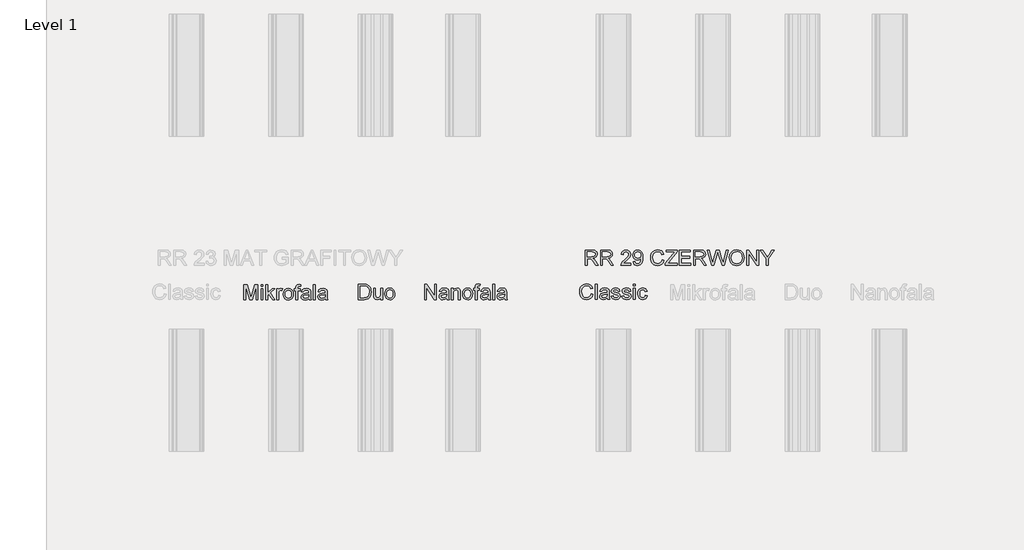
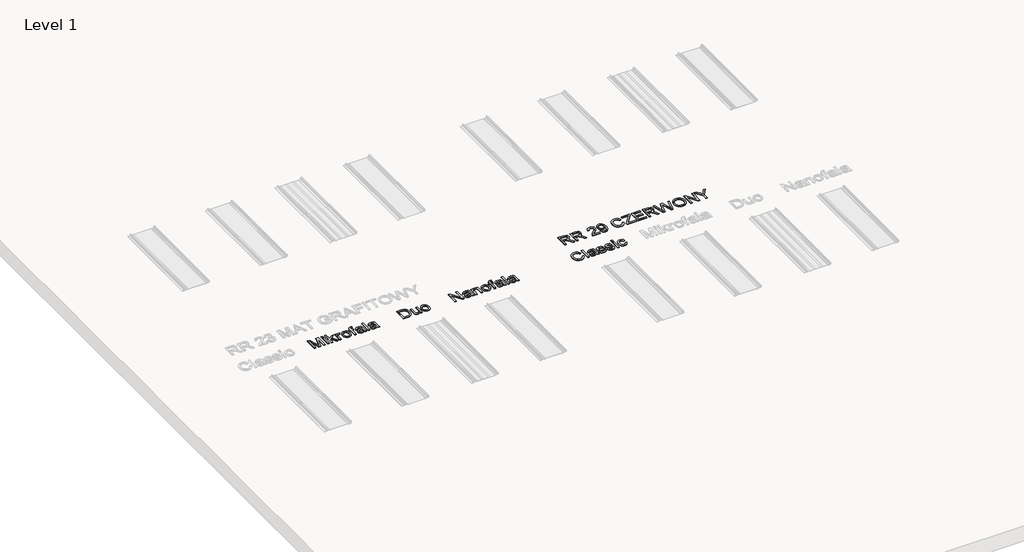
# One storey, part 12 of 24: 5 proxies.
"""IFC4 building model written with IfcOpenShell, lengths in millimetres."""

from ifc_helpers import new_model, si_unit, frame, origin, place, context, project, spatial, polyline, outline, extrude, element, save

model = new_model("IFC4")

# Units and contexts
model_context = context("Model", 3, world=origin())
ifc_project = project(units=[si_unit("LENGTHUNIT", "METRE", prefix="MILLI")], contexts=[model_context])

# Site, building, storey
site = spatial("IfcSite", under=ifc_project)
building = spatial("IfcBuilding", under=site)
storey = spatial("IfcBuildingStorey", under=building, Name="Level 1", Elevation=0.0)

# Proxies
placement = place(None, origin())
element("IfcBuildingElementProxy", 1, Name="150", ObjectType="150", at=placement, inside=storey, context=model_context, shape_type="SweptSolid", body=[
    extrude(outline(polyline([(-7895.6654959, -5075.281387), (-7895.6654959, -4924.5969218), (-7863.3654568, -4924.5969218), (-7832.4633692, -5030.8044538), (-7826.2093753, -5052.9877381), (-7819.4771347, -5028.9650438), (-7789.1636583, -4924.5969218), (-7756.7532546, -4924.5969218), (-7756.7532546, -5075.281387), (-7775.5888127, -5075.281387), (-7775.5888127, -4943.4324799), (-7813.44387, -5075.281387), (-7838.9380923, -5075.281387), (-7876.8299378, -4943.4324799), (-7876.8299378, -5075.281387), (-7895.6654959, -5075.281387)])), frame((0.0, 0.0, 600.0), z_axis=(0.0, 0.0, 1.0), x_axis=(1.0, 0.0, 0.0)), (0.0, 0.0, 1.0), 10.0),
    extrude(outline(polyline([(-7726.1454726, -4943.4324799), (-7726.1454726, -4924.5969218), (-7707.3099144, -4924.5969218), (-7707.3099144, -4943.4324799), (-7726.1454726, -4943.4324799)])), frame((0.0, 0.0, 600.0), z_axis=(0.0, 0.0, 1.0), x_axis=(1.0, 0.0, 0.0)), (0.0, 0.0, 1.0), 10.0),
    extrude(outline(polyline([(-7726.1454726, -5075.281387), (-7726.1454726, -4964.6224829), (-7707.3099144, -4964.6224829), (-7707.3099144, -5075.281387), (-7726.1454726, -5075.281387)])), frame((0.0, 0.0, 600.0), z_axis=(0.0, 0.0, 1.0), x_axis=(1.0, 0.0, 0.0)), (0.0, 0.0, 1.0), 10.0),
    extrude(outline(polyline([(-7679.0565772, -5075.281387), (-7679.0565772, -4924.5969218), (-7660.221019, -4924.5969218), (-7660.221019, -5005.5677489), (-7617.988166, -4964.6224829), (-7591.9421207, -4964.6224829), (-7634.7267968, -5006.0827837), (-7589.587676, -5075.281387), (-7611.5870193, -5075.281387), (-7648.228066, -5019.1793827), (-7660.221019, -5030.841242), (-7660.221019, -5075.281387), (-7679.0565772, -5075.281387)])), frame((0.0, 0.0, 600.0), z_axis=(0.0, 0.0, 1.0), x_axis=(1.0, 0.0, 0.0)), (0.0, 0.0, 1.0), 10.0),
    extrude(outline(polyline([(-7573.1065626, -5075.281387), (-7573.1065626, -4964.6224829), (-7556.6254492, -4964.6224829), (-7556.6254492, -4980.9932316), (-7544.9268017, -4965.9100698), (-7533.1545779, -4962.2680381), (-7514.2454433, -4968.0805736), (-7520.5362255, -4984.9663572), (-7533.7799773, -4981.1035962), (-7544.4301611, -4984.8192044), (-7551.2175839, -4995.1199003), (-7554.2710044, -5017.1192436), (-7554.2710044, -5075.281387), (-7573.1065626, -5075.281387)])), frame((0.0, 0.0, 600.0), z_axis=(0.0, 0.0, 1.0), x_axis=(1.0, 0.0, 0.0)), (0.0, 0.0, 1.0), 10.0),
    extrude(outline(polyline([(-7507.182109, -5019.9519349), (-7503.1078159, -4993.2712932), (-7490.8849367, -4974.5185085), (-7475.7833808, -4965.3306557), (-7457.7019807, -4962.2680381), (-7437.9145279, -4965.9974418), (-7422.1093977, -4977.185653), (-7411.748921, -4994.9497548), (-7408.2954287, -5018.4068306), (-7409.822139, -5037.4355268), (-7414.4022699, -5051.9208803), (-7421.902464, -5062.7688007), (-7432.1893643, -5070.8851972), (-7444.4076451, -5075.9481731), (-7457.7019807, -5077.6358318), (-7477.7285568, -5073.9202236), (-7493.5152929, -5062.7733992), (-7503.765405, -5044.6368168), (-7507.182109, -5019.9519349)]), holes=[polyline([(-7488.3465509, -5019.9151467), (-7486.1668501, -5036.9618787), (-7479.6277476, -5049.1065831), (-7469.7869042, -5056.376851), (-7457.7019807, -5058.8002736), (-7445.6722394, -5056.3630554), (-7435.8497902, -5049.0514008), (-7429.3106877, -5036.745748), (-7427.1309869, -5019.3265355), (-7429.3244833, -5002.7764443), (-7435.9049725, -4990.7972868), (-7445.7412173, -4983.5270189), (-7457.7019807, -4981.1035962), (-7469.7869042, -4983.5178218), (-7479.6277476, -4990.7604986), (-7486.1668501, -5002.8776118), (-7488.3465509, -5019.9151467)])]), frame((0.0, 0.0, 600.0), z_axis=(0.0, 0.0, 1.0), x_axis=(1.0, 0.0, 0.0)), (0.0, 0.0, 1.0), 10.0),
    extrude(outline(polyline([(-7382.3965363, -5075.281387), (-7382.3965363, -4983.458041), (-7398.8776497, -4983.458041), (-7398.8776497, -4964.6224829), (-7382.3965363, -4964.6224829), (-7382.3965363, -4953.4756584), (-7380.4099735, -4937.7670972), (-7370.7714652, -4926.5466964), (-7351.7887543, -4922.242477), (-7334.6086651, -4924.3026162), (-7337.3677801, -4941.960952), (-7348.2202989, -4941.0780352), (-7360.0844933, -4944.2050321), (-7363.5609781, -4955.8668914), (-7363.5609781, -4964.6224829), (-7342.3709752, -4964.6224829), (-7342.3709752, -4983.458041), (-7363.5609781, -4983.458041), (-7363.5609781, -5075.281387), (-7382.3965363, -5075.281387)])), frame((0.0, 0.0, 600.0), z_axis=(0.0, 0.0, 1.0), x_axis=(1.0, 0.0, 0.0)), (0.0, 0.0, 1.0), 10.0),
    extrude(outline(polyline([(-7255.2565187, -5061.1547184), (-7273.5218598, -5073.9202236), (-7293.7001872, -5077.6358318), (-7309.4409381, -5075.4009487), (-7321.0522136, -5068.6962993), (-7328.2121169, -5058.5151651), (-7330.5987514, -5045.8508274), (-7326.9935078, -5030.9516066), (-7317.5205464, -5020.1358759), (-7304.3319769, -5013.9554584), (-7288.0348045, -5011.1227671), (-7255.3668833, -5004.6480439), (-7255.2565187, -5000.4541892), (-7256.5533028, -4992.0480856), (-7260.4436549, -4986.5482498), (-7269.1440641, -4982.4647596), (-7281.2657758, -4981.1035962), (-7300.3220632, -4984.7272339), (-7309.4087484, -4997.5847096), (-7328.2443066, -4995.2302649), (-7320.0957204, -4976.8361651), (-7303.6881834, -4966.0572226), (-7278.8377546, -4962.2680381), (-7256.0106768, -4965.6157643), (-7243.1164129, -4974.0218678), (-7237.3406656, -4986.8057672), (-7236.4209606, -5003.2868806), (-7236.4209606, -5026.7209636), (-7235.4644674, -5059.4440671), (-7231.7120711, -5075.281387), (-7250.5476292, -5075.281387), (-7255.2565187, -5061.1547184)]), holes=[polyline([(-7255.2565187, -5023.4836021), (-7285.6435715, -5029.2593494), (-7301.8487734, -5032.31277), (-7309.1880192, -5037.2791769), (-7311.7631932, -5044.5264522), (-7306.1529928, -5054.7167835), (-7289.6902735, -5058.8002736), (-7270.6339861, -5054.2937192), (-7258.3467275, -5043.386018), (-7255.3668833, -5028.817891), (-7255.2565187, -5023.4836021)])]), frame((0.0, 0.0, 600.0), z_axis=(0.0, 0.0, 1.0), x_axis=(1.0, 0.0, 0.0)), (0.0, 0.0, 1.0), 10.0),
    extrude(outline(polyline([(-7210.5220681, -5075.281387), (-7210.5220681, -4924.5969218), (-7191.68651, -4924.5969218), (-7191.68651, -5075.281387), (-7210.5220681, -5075.281387)])), frame((0.0, 0.0, 600.0), z_axis=(0.0, 0.0, 1.0), x_axis=(1.0, 0.0, 0.0)), (0.0, 0.0, 1.0), 10.0),
    extrude(outline(polyline([(-7092.7998297, -5061.1547184), (-7111.0651707, -5073.9202236), (-7131.2434982, -5077.6358318), (-7146.984249, -5075.4009487), (-7158.5955245, -5068.6962993), (-7165.7554278, -5058.5151651), (-7168.1420623, -5045.8508274), (-7164.5368187, -5030.9516066), (-7155.0638574, -5020.1358759), (-7141.8752878, -5013.9554584), (-7125.5781154, -5011.1227671), (-7092.9101943, -5004.6480439), (-7092.7998297, -5000.4541892), (-7094.0966137, -4992.0480856), (-7097.9869658, -4986.5482498), (-7106.687375, -4982.4647596), (-7118.8090867, -4981.1035962), (-7137.8653741, -4984.7272339), (-7146.9520594, -4997.5847096), (-7165.7876175, -4995.2302649), (-7157.6390313, -4976.8361651), (-7141.2314943, -4966.0572226), (-7116.3810656, -4962.2680381), (-7093.5539878, -4965.6157643), (-7080.6597238, -4974.0218678), (-7074.8839765, -4986.8057672), (-7073.9642715, -5003.2868806), (-7073.9642715, -5026.7209636), (-7073.0077783, -5059.4440671), (-7069.255382, -5075.281387), (-7088.0909401, -5075.281387), (-7092.7998297, -5061.1547184)]), holes=[polyline([(-7092.7998297, -5023.4836021), (-7123.1868825, -5029.2593494), (-7139.3920844, -5032.31277), (-7146.7313302, -5037.2791769), (-7149.3065041, -5044.5264522), (-7143.6963037, -5054.7167835), (-7127.2335844, -5058.8002736), (-7108.1772971, -5054.2937192), (-7095.8900384, -5043.386018), (-7092.9101943, -5028.817891), (-7092.7998297, -5023.4836021)])]), frame((0.0, 0.0, 600.0), z_axis=(0.0, 0.0, 1.0), x_axis=(1.0, 0.0, 0.0)), (0.0, 0.0, 1.0), 10.0),
])
element("IfcBuildingElementProxy", 2, Name="150", ObjectType="150", at=placement, inside=storey, context=model_context, shape_type="SweptSolid", body=[
    extrude(outline(polyline([(-6767.5807075, -5072.1592468), (-6767.5807075, -4921.4747816), (-6715.5989816, -4921.4747816), (-6688.7068077, -4923.6452853), (-6666.5603116, -4934.4242278), (-6656.1400541, -4945.902146), (-6648.7180349, -4960.1759675), (-6644.2758598, -4976.9697805), (-6642.7951347, -4996.0076738), (-6646.8050485, -5026.4131207), (-6657.1057443, -5048.3572817), (-6670.864531, -5062.0240978), (-6688.8723546, -5069.5840728), (-6713.097384, -5072.1592468), (-6767.5807075, -5072.1592468)]), holes=[polyline([(-6748.7451493, -5053.3236886), (-6715.4150406, -5053.3236886), (-6691.1716171, -5050.6013619), (-6677.1921013, -5042.9126282), (-6665.7325771, -5024.2058287), (-6661.6306929, -4995.7133682), (-6663.6402483, -4975.1855529), (-6669.6689145, -4960.0288147), (-6678.5762573, -4949.6177542), (-6689.2218425, -4943.3269721), (-6715.9300754, -4940.3103397), (-6748.7451493, -4940.3103397), (-6748.7451493, -5053.3236886)])]), frame((0.0, 0.0, 600.0), z_axis=(0.0, 0.0, 1.0), x_axis=(1.0, 0.0, 0.0)), (0.0, 0.0, 1.0), 10.0),
    extrude(outline(polyline([(-6548.617344, -5072.1592468), (-6548.617344, -5053.1397476), (-6563.369412, -5069.1702056), (-6582.6096403, -5074.5136916), (-6600.3231584, -5070.7612952), (-6612.5368406, -5061.3435161), (-6618.1470411, -5047.4743649), (-6619.250687, -5029.9631819), (-6619.250687, -4961.5003426), (-6600.4151289, -4961.5003426), (-6600.4151289, -5021.0972259), (-6599.2746947, -5040.300666), (-6591.8250843, -5051.5762492), (-6577.7903862, -5055.6781334), (-6562.0634309, -5051.4842787), (-6551.6707645, -5040.0615427), (-6548.617344, -5019.0738749), (-6548.617344, -4961.5003426), (-6529.7817858, -4961.5003426), (-6529.7817858, -5072.1592468), (-6548.617344, -5072.1592468)])), frame((0.0, 0.0, 600.0), z_axis=(0.0, 0.0, 1.0), x_axis=(1.0, 0.0, 0.0)), (0.0, 0.0, 1.0), 10.0),
    extrude(outline(polyline([(-6508.5917829, -5016.8297947), (-6504.5174898, -4990.149153), (-6492.2946105, -4971.3963683), (-6477.1930546, -4962.2085155), (-6459.1116545, -4959.1458979), (-6439.3242017, -4962.8753016), (-6423.5190715, -4974.0635128), (-6413.1585948, -4991.8276146), (-6409.7051026, -5015.2846903), (-6411.2318129, -5034.3133865), (-6415.8119437, -5048.7987401), (-6423.3121379, -5059.6466604), (-6433.5990382, -5067.7630569), (-6445.8173189, -5072.8260329), (-6459.1116545, -5074.5136916), (-6479.1382307, -5070.7980834), (-6494.9249668, -5059.651259), (-6505.1750789, -5041.5146766), (-6508.5917829, -5016.8297947)]), holes=[polyline([(-6489.7562247, -5016.7930065), (-6487.5765239, -5033.8397385), (-6481.0374215, -5045.9844428), (-6471.1965781, -5053.2547108), (-6459.1116545, -5055.6781334), (-6447.0819133, -5053.2409152), (-6437.259464, -5045.9292605), (-6430.7203616, -5033.6236078), (-6428.5406607, -5016.2043953), (-6430.7341571, -4999.6543041), (-6437.3146463, -4987.6751466), (-6447.1508912, -4980.4048787), (-6459.1116545, -4977.981456), (-6471.1965781, -4980.3956816), (-6481.0374215, -4987.6383584), (-6487.5765239, -4999.7554716), (-6489.7562247, -5016.7930065)])]), frame((0.0, 0.0, 600.0), z_axis=(0.0, 0.0, 1.0), x_axis=(1.0, 0.0, 0.0)), (0.0, 0.0, 1.0), 10.0),
])
element("IfcBuildingElementProxy", 3, Name="150", ObjectType="150", at=placement, inside=storey, context=model_context, shape_type="SweptSolid", body=[
    extrude(outline(polyline([(-4479.0085992, -5017.1818641), (-4460.1730411, -5022.0379064), (-4468.8642532, -5043.986666), (-4482.5034782, -5060.0217224), (-4500.4193314, -5069.8303761), (-4521.9404281, -5073.0999274), (-4543.7880201, -5070.6259209), (-4561.1382547, -5063.2039017), (-4574.4371888, -5051.091387), (-4584.1308794, -5034.5458943), (-4590.049181, -5015.0941338), (-4592.0219482, -4994.2628158), (-4589.7916636, -4972.2910636), (-4583.1008098, -4953.3175497), (-4572.2988747, -4937.9446809), (-4557.7353462, -4926.7748638), (-4540.4632865, -4919.9736454), (-4521.5357579, -4917.7065726), (-4500.8837824, -4920.6404315), (-4483.8094593, -4929.4420082), (-4470.8462175, -4943.5686769), (-4462.5274859, -4962.4778114), (-4481.363044, -4966.9659718), (-4487.8929494, -4953.2301778), (-4496.8140878, -4943.8078002), (-4508.2368238, -4938.3585481), (-4522.2715219, -4936.5421308), (-4538.4491326, -4938.5562847), (-4551.7388697, -4944.5987464), (-4561.8234349, -4954.0349196), (-4568.38553, -4966.2302078), (-4573.18639, -4994.2260276), (-4571.7654458, -5011.626846), (-4567.5026132, -5026.6732196), (-4560.2369438, -5038.7903328), (-4549.8074892, -5047.40337), (-4537.3040999, -5052.5491194), (-4523.8166263, -5054.2643692), (-4508.0942695, -5051.9283185), (-4494.9930719, -5044.9201665), (-4485.1016448, -5033.3134896), (-4479.0085992, -5017.1818641)])), frame((0.0, 0.0, 600.0), z_axis=(0.0, 0.0, 1.0), x_axis=(1.0, 0.0, 0.0)), (0.0, 0.0, 1.0), 10.0),
    extrude(outline(polyline([(-4436.6285934, -5070.7454826), (-4436.6285934, -4920.0610174), (-4417.7930352, -4920.0610174), (-4417.7930352, -5070.7454826), (-4436.6285934, -5070.7454826)])), frame((0.0, 0.0, 600.0), z_axis=(0.0, 0.0, 1.0), x_axis=(1.0, 0.0, 0.0)), (0.0, 0.0, 1.0), 10.0),
    extrude(outline(polyline([(-4318.9063549, -5056.618814), (-4337.171696, -5069.3843192), (-4357.3500234, -5073.0999274), (-4373.0907743, -5070.8650442), (-4384.7020498, -5064.1603949), (-4391.8619531, -5053.9792607), (-4394.2485875, -5041.314923), (-4390.643344, -5026.4157022), (-4381.1703826, -5015.5999715), (-4367.9818131, -5009.419554), (-4351.6846407, -5006.5868626), (-4319.0167195, -5000.1121395), (-4318.9063549, -4995.9182848), (-4320.203139, -4987.5121812), (-4324.0934911, -4982.0123454), (-4332.7939003, -4977.9288552), (-4344.915612, -4976.5676918), (-4363.9718993, -4980.1913295), (-4373.0585846, -4993.0488052), (-4391.8941428, -4990.6943604), (-4383.7455566, -4972.3002607), (-4367.3380196, -4961.5213182), (-4342.4875908, -4957.7321337), (-4319.660513, -4961.0798598), (-4306.7662491, -4969.4859634), (-4300.9905018, -4982.2698628), (-4300.0707968, -4998.7509761), (-4300.0707968, -5022.1850592), (-4299.1143036, -5054.9081627), (-4295.3619072, -5070.7454826), (-4314.1974654, -5070.7454826), (-4318.9063549, -5056.618814)]), holes=[polyline([(-4318.9063549, -5018.9476977), (-4349.2934077, -5024.723445), (-4365.4986096, -5027.7768656), (-4372.8378554, -5032.7432725), (-4375.4130294, -5039.9905478), (-4369.802829, -5050.1808791), (-4353.3401097, -5054.2643692), (-4334.2838223, -5049.7578148), (-4321.9965637, -5038.8501136), (-4319.0167195, -5024.2819866), (-4318.9063549, -5018.9476977)])]), frame((0.0, 0.0, 600.0), z_axis=(0.0, 0.0, 1.0), x_axis=(1.0, 0.0, 0.0)), (0.0, 0.0, 1.0), 10.0),
    extrude(outline(polyline([(-4281.2352386, -5037.7832558), (-4262.3996805, -5035.4288111), (-4259.4290334, -5043.4854268), (-4253.6808772, -5049.4083269), (-4233.7048849, -5054.2643692), (-4214.5014447, -5049.8129971), (-4208.2474508, -5039.3651484), (-4209.8201463, -5034.5642884), (-4214.5382329, -5030.9038625), (-4233.9256141, -5025.5327854), (-4262.2893159, -5016.3173414), (-4274.668545, -5005.5567931), (-4278.8807939, -4990.3632666), (-4275.4962795, -4976.3285685), (-4266.2624414, -4965.6048084), (-4254.2878825, -4960.0313961), (-4238.0826806, -4957.7321337), (-4215.1636323, -4961.4293477), (-4200.5955053, -4971.435738), (-4194.1207822, -4988.3399157), (-4212.9563403, -4990.6943604), (-4220.0380687, -4980.3016941), (-4236.6111526, -4976.5676918), (-4254.6373704, -4980.1361472), (-4260.0452357, -4988.4502803), (-4257.8011555, -4993.931722), (-4250.7746094, -4998.0887885), (-4234.5510134, -5002.0987023), (-4206.9046815, -5010.9646584), (-4194.0655999, -5021.0078368), (-4189.4118926, -5037.3785856), (-4194.8749403, -5055.4048034), (-4210.6386838, -5068.4830083), (-4233.9624023, -5073.0999274), (-4252.9543103, -5070.8742413), (-4266.8142644, -5064.1971831), (-4276.0664966, -5053.1423291), (-4281.2352386, -5037.7832558)])), frame((0.0, 0.0, 600.0), z_axis=(0.0, 0.0, 1.0), x_axis=(1.0, 0.0, 0.0)), (0.0, 0.0, 1.0), 10.0),
    extrude(outline(polyline([(-4175.285224, -5037.7832558), (-4156.4496659, -5035.4288111), (-4153.4790188, -5043.4854268), (-4147.7308626, -5049.4083269), (-4127.7548702, -5054.2643692), (-4108.5514301, -5049.8129971), (-4102.2974362, -5039.3651484), (-4103.8701317, -5034.5642884), (-4108.5882183, -5030.9038625), (-4127.9755994, -5025.5327854), (-4156.3393013, -5016.3173414), (-4168.7185304, -5005.5567931), (-4172.9307793, -4990.3632666), (-4169.5462649, -4976.3285685), (-4160.3124268, -4965.6048084), (-4148.3378679, -4960.0313961), (-4132.132666, -4957.7321337), (-4109.2136177, -4961.4293477), (-4094.6454907, -4971.435738), (-4088.1707676, -4988.3399157), (-4107.0063257, -4990.6943604), (-4114.0880541, -4980.3016941), (-4130.661138, -4976.5676918), (-4148.6873558, -4980.1361472), (-4154.0952211, -4988.4502803), (-4151.8511409, -4993.931722), (-4144.8245948, -4998.0887885), (-4128.6009988, -5002.0987023), (-4100.9546669, -5010.9646584), (-4088.1155853, -5021.0078368), (-4083.461878, -5037.3785856), (-4088.9249257, -5055.4048034), (-4104.6886691, -5068.4830083), (-4128.0123876, -5073.0999274), (-4147.0042956, -5070.8742413), (-4160.8642498, -5064.1971831), (-4170.116482, -5053.1423291), (-4175.285224, -5037.7832558)])), frame((0.0, 0.0, 600.0), z_axis=(0.0, 0.0, 1.0), x_axis=(1.0, 0.0, 0.0)), (0.0, 0.0, 1.0), 10.0),
    extrude(outline(polyline([(-4062.2718751, -4938.8965755), (-4062.2718751, -4920.0610174), (-4043.4363169, -4920.0610174), (-4043.4363169, -4938.8965755), (-4062.2718751, -4938.8965755)])), frame((0.0, 0.0, 600.0), z_axis=(0.0, 0.0, 1.0), x_axis=(1.0, 0.0, 0.0)), (0.0, 0.0, 1.0), 10.0),
    extrude(outline(polyline([(-4062.2718751, -5070.7454826), (-4062.2718751, -4960.0865784), (-4043.4363169, -4960.0865784), (-4043.4363169, -5070.7454826), (-4062.2718751, -5070.7454826)])), frame((0.0, 0.0, 600.0), z_axis=(0.0, 0.0, 1.0), x_axis=(1.0, 0.0, 0.0)), (0.0, 0.0, 1.0), 10.0),
    extrude(outline(polyline([(-3944.5496366, -5030.7199215), (-3925.7140785, -5033.0743663), (-3930.965594, -5049.8267926), (-3940.8340285, -5062.4865318), (-3954.39048, -5070.4465785), (-3970.7060465, -5073.0999274), (-3990.7418197, -5069.3981148), (-4006.4089941, -5058.2926771), (-4016.5211505, -5040.2710578), (-4019.8918693, -5015.8207007), (-4018.452531, -4999.0590773), (-4014.134516, -4984.532337), (-4006.8688466, -4972.8014999), (-3996.5865449, -4964.427586), (-3984.2854906, -4959.4059968), (-3970.9635639, -4957.7321337), (-3955.0480691, -4960.0313961), (-3942.3239506, -4966.9291836), (-3933.1958786, -4978.0576139), (-3928.0685233, -4993.0488052), (-3946.9040814, -4995.40325), (-3955.6412788, -4981.2949755), (-3970.8164111, -4976.5676918), (-3982.9887066, -4978.8945454), (-3992.6502075, -4985.8751063), (-3998.9547852, -4997.8864535), (-4001.0563111, -5015.3056659), (-3999.0007705, -5032.9594032), (-3992.8341485, -5045.012137), (-3983.3473916, -5051.9513112), (-3971.3314459, -5054.2643692), (-3961.5779745, -5052.8204324), (-3953.5811396, -5048.4886219), (-3947.7640056, -5041.1585731), (-3944.5496366, -5030.7199215)])), frame((0.0, 0.0, 600.0), z_axis=(0.0, 0.0, 1.0), x_axis=(1.0, 0.0, 0.0)), (0.0, 0.0, 1.0), 10.0),
])
element("IfcBuildingElementProxy", 4, Name="150", ObjectType="150", at=placement, inside=storey, context=model_context, shape_type="SweptSolid", body=[
    extrude(outline(polyline([(-6117.5806572, -5072.1592468), (-6117.5806572, -4921.4747816), (-6097.4207239, -4921.4747816), (-6018.6939769, -5040.852489), (-6018.6939769, -4921.4747816), (-5999.8584188, -4921.4747816), (-5999.8584188, -5072.1592468), (-6020.0183521, -5072.1592468), (-6098.7450991, -4952.7447512), (-6098.7450991, -5072.1592468), (-6117.5806572, -5072.1592468)])), frame((0.0, 0.0, 600.0), z_axis=(0.0, 0.0, 1.0), x_axis=(1.0, 0.0, 0.0)), (0.0, 0.0, 1.0), 10.0),
    extrude(outline(polyline([(-5898.6172937, -5058.0325782), (-5916.8826347, -5070.7980834), (-5937.0609622, -5074.5136916), (-5952.801713, -5072.2788084), (-5964.4129885, -5065.5741591), (-5971.5728919, -5055.3930249), (-5973.9595263, -5042.7286872), (-5970.3542827, -5027.8294664), (-5960.8813214, -5017.0137357), (-5947.6927518, -5010.8333182), (-5931.3955795, -5008.0006268), (-5898.7276583, -5001.5259037), (-5898.6172937, -4997.332049), (-5899.9140777, -4988.9259454), (-5903.8044298, -4983.4261096), (-5912.504839, -4979.3426194), (-5924.6265507, -4977.981456), (-5943.6828381, -4981.6050937), (-5952.7695234, -4994.4625694), (-5971.6050815, -4992.1081246), (-5963.4564953, -4973.7140249), (-5947.0489583, -4962.9350824), (-5922.1985296, -4959.1458979), (-5899.3714518, -4962.493624), (-5886.4771878, -4970.8997276), (-5880.7014405, -4983.683627), (-5879.7817355, -5000.1647403), (-5879.7817355, -5023.5988234), (-5878.8252423, -5056.3219269), (-5875.072846, -5072.1592468), (-5893.9084041, -5072.1592468), (-5898.6172937, -5058.0325782)]), holes=[polyline([(-5898.6172937, -5020.3614619), (-5929.0043465, -5026.1372092), (-5945.2095484, -5029.1906298), (-5952.5487942, -5034.1570367), (-5955.1239681, -5041.404312), (-5949.5137677, -5051.5946433), (-5933.0510484, -5055.6781334), (-5913.9947611, -5051.171579), (-5901.7075024, -5040.2638778), (-5898.7276583, -5025.6957508), (-5898.6172937, -5020.3614619)])]), frame((0.0, 0.0, 600.0), z_axis=(0.0, 0.0, 1.0), x_axis=(1.0, 0.0, 0.0)), (0.0, 0.0, 1.0), 10.0),
    extrude(outline(polyline([(-5853.8828431, -5072.1592468), (-5853.8828431, -4961.5003426), (-5835.0472849, -4961.5003426), (-5835.0472849, -4976.9513864), (-5820.6447048, -4963.59727), (-5800.9814122, -4959.1458979), (-5783.1943177, -4962.7327473), (-5771.0542119, -4972.1505264), (-5765.4072232, -4986.0012835), (-5764.4139418, -5004.2114423), (-5764.4139418, -5072.1592468), (-5783.2495, -5072.1592468), (-5783.2495, -5006.749828), (-5785.4200038, -4990.0847737), (-5793.0903434, -4981.2739999), (-5806.0213955, -4977.981456), (-5817.0532568, -4979.8300631), (-5826.4572403, -4985.3758841), (-5832.8997738, -4996.0904472), (-5835.0472849, -5013.4452804), (-5835.0472849, -5072.1592468), (-5853.8828431, -5072.1592468)])), frame((0.0, 0.0, 600.0), z_axis=(0.0, 0.0, 1.0), x_axis=(1.0, 0.0, 0.0)), (0.0, 0.0, 1.0), 10.0),
    extrude(outline(polyline([(-5743.2239389, -5016.8297947), (-5739.1496458, -4990.149153), (-5726.9267665, -4971.3963683), (-5711.8252106, -4962.2085155), (-5693.7438106, -4959.1458979), (-5673.9563578, -4962.8753016), (-5658.1512275, -4974.0635128), (-5647.7907508, -4991.8276146), (-5644.3372586, -5015.2846903), (-5645.8639689, -5034.3133865), (-5650.4440997, -5048.7987401), (-5657.9442939, -5059.6466604), (-5668.2311942, -5067.7630569), (-5680.449475, -5072.8260329), (-5693.7438106, -5074.5136916), (-5713.7703867, -5070.7980834), (-5729.5571228, -5059.651259), (-5739.8072349, -5041.5146766), (-5743.2239389, -5016.8297947)]), holes=[polyline([(-5724.3883808, -5016.7930065), (-5722.2086799, -5033.8397385), (-5715.6695775, -5045.9844428), (-5705.8287341, -5053.2547108), (-5693.7438106, -5055.6781334), (-5681.7140693, -5053.2409152), (-5671.8916201, -5045.9292605), (-5665.3525176, -5033.6236078), (-5663.1728168, -5016.2043953), (-5665.3663132, -4999.6543041), (-5671.9468024, -4987.6751466), (-5681.7830472, -4980.4048787), (-5693.7438106, -4977.981456), (-5705.8287341, -4980.3956816), (-5715.6695775, -4987.6383584), (-5722.2086799, -4999.7554716), (-5724.3883808, -5016.7930065)])]), frame((0.0, 0.0, 600.0), z_axis=(0.0, 0.0, 1.0), x_axis=(1.0, 0.0, 0.0)), (0.0, 0.0, 1.0), 10.0),
    extrude(outline(polyline([(-5618.4383662, -5072.1592468), (-5618.4383662, -4980.3359008), (-5634.9194795, -4980.3359008), (-5634.9194795, -4961.5003426), (-5618.4383662, -4961.5003426), (-5618.4383662, -4950.3535182), (-5616.4518034, -4934.644957), (-5606.8132951, -4923.4245561), (-5587.8305842, -4919.1203368), (-5570.650495, -4921.180476), (-5573.4096099, -4938.8388117), (-5584.2621288, -4937.955895), (-5596.1263231, -4941.0828919), (-5599.602808, -4952.7447512), (-5599.602808, -4961.5003426), (-5578.4128051, -4961.5003426), (-5578.4128051, -4980.3359008), (-5599.602808, -4980.3359008), (-5599.602808, -5072.1592468), (-5618.4383662, -5072.1592468)])), frame((0.0, 0.0, 600.0), z_axis=(0.0, 0.0, 1.0), x_axis=(1.0, 0.0, 0.0)), (0.0, 0.0, 1.0), 10.0),
    extrude(outline(polyline([(-5491.2983486, -5058.0325782), (-5509.5636897, -5070.7980834), (-5529.7420171, -5074.5136916), (-5545.482768, -5072.2788084), (-5557.0940435, -5065.5741591), (-5564.2539468, -5055.3930249), (-5566.6405812, -5042.7286872), (-5563.0353377, -5027.8294664), (-5553.5623763, -5017.0137357), (-5540.3738068, -5010.8333182), (-5524.0766344, -5008.0006268), (-5491.4087132, -5001.5259037), (-5491.2983486, -4997.332049), (-5492.5951327, -4988.9259454), (-5496.4854848, -4983.4261096), (-5505.1858939, -4979.3426194), (-5517.3076057, -4977.981456), (-5536.363893, -4981.6050937), (-5545.4505783, -4994.4625694), (-5564.2861365, -4992.1081246), (-5556.1375503, -4973.7140249), (-5539.7300133, -4962.9350824), (-5514.8795845, -4959.1458979), (-5492.0525067, -4962.493624), (-5479.1582428, -4970.8997276), (-5473.3824955, -4983.683627), (-5472.4627905, -5000.1647403), (-5472.4627905, -5023.5988234), (-5471.5062973, -5056.3219269), (-5467.7539009, -5072.1592468), (-5486.5894591, -5072.1592468), (-5491.2983486, -5058.0325782)]), holes=[polyline([(-5491.2983486, -5020.3614619), (-5521.6854014, -5026.1372092), (-5537.8906033, -5029.1906298), (-5545.2298491, -5034.1570367), (-5547.8050231, -5041.404312), (-5542.1948227, -5051.5946433), (-5525.7321034, -5055.6781334), (-5506.675816, -5051.171579), (-5494.3885574, -5040.2638778), (-5491.4087132, -5025.6957508), (-5491.2983486, -5020.3614619)])]), frame((0.0, 0.0, 600.0), z_axis=(0.0, 0.0, 1.0), x_axis=(1.0, 0.0, 0.0)), (0.0, 0.0, 1.0), 10.0),
    extrude(outline(polyline([(-5446.563898, -5072.1592468), (-5446.563898, -4921.4747816), (-5427.7283399, -4921.4747816), (-5427.7283399, -5072.1592468), (-5446.563898, -5072.1592468)])), frame((0.0, 0.0, 600.0), z_axis=(0.0, 0.0, 1.0), x_axis=(1.0, 0.0, 0.0)), (0.0, 0.0, 1.0), 10.0),
    extrude(outline(polyline([(-5328.8416596, -5058.0325782), (-5347.1070006, -5070.7980834), (-5367.285328, -5074.5136916), (-5383.0260789, -5072.2788084), (-5394.6373544, -5065.5741591), (-5401.7972577, -5055.3930249), (-5404.1838922, -5042.7286872), (-5400.5786486, -5027.8294664), (-5391.1056872, -5017.0137357), (-5377.9171177, -5010.8333182), (-5361.6199453, -5008.0006268), (-5328.9520242, -5001.5259037), (-5328.8416596, -4997.332049), (-5330.1384436, -4988.9259454), (-5334.0287957, -4983.4261096), (-5342.7292049, -4979.3426194), (-5354.8509166, -4977.981456), (-5373.907204, -4981.6050937), (-5382.9938892, -4994.4625694), (-5401.8294474, -4992.1081246), (-5393.6808612, -4973.7140249), (-5377.2733242, -4962.9350824), (-5352.4228954, -4959.1458979), (-5329.5958176, -4962.493624), (-5316.7015537, -4970.8997276), (-5310.9258064, -4983.683627), (-5310.0061014, -5000.1647403), (-5310.0061014, -5023.5988234), (-5309.0496082, -5056.3219269), (-5305.2972119, -5072.1592468), (-5324.13277, -5072.1592468), (-5328.8416596, -5058.0325782)]), holes=[polyline([(-5328.8416596, -5020.3614619), (-5359.2287124, -5026.1372092), (-5375.4339142, -5029.1906298), (-5382.77316, -5034.1570367), (-5385.348334, -5041.404312), (-5379.7381336, -5051.5946433), (-5363.2754143, -5055.6781334), (-5344.219127, -5051.171579), (-5331.9318683, -5040.2638778), (-5328.9520242, -5025.6957508), (-5328.8416596, -5020.3614619)])]), frame((0.0, 0.0, 600.0), z_axis=(0.0, 0.0, 1.0), x_axis=(1.0, 0.0, 0.0)), (0.0, 0.0, 1.0), 10.0),
])
element("IfcBuildingElementProxy", 5, Name="150 Blue", ObjectType="150 Blue", at=placement, inside=storey, context=model_context, shape_type="SweptSolid", body=[
    extrude(outline(polyline([(-4536.4118342, -4735.6514112), (-4536.4118342, -4584.966946), (-4471.4806621, -4584.966946), (-4441.3327325, -4589.032042), (-4432.0529092, -4594.6606365), (-4424.8516192, -4603.416228), (-4420.2301016, -4614.2733454), (-4418.6895957, -4626.2065176), (-4421.2417771, -4641.0505561), (-4428.8983211, -4653.3562089), (-4441.8891541, -4662.3785148), (-4460.4442022, -4667.3725129), (-4449.7388361, -4675.4291286), (-4434.4717333, -4694.8165097), (-4409.3453931, -4735.6514112), (-4431.2343718, -4735.6514112), (-4450.8424821, -4704.4182298), (-4465.0059389, -4683.7432617), (-4474.9571469, -4673.9759947), (-4483.9150735, -4670.3891452), (-4494.8411687, -4669.7269577), (-4517.576276, -4669.7269577), (-4517.576276, -4735.6514112), (-4536.4118342, -4735.6514112)]), holes=[polyline([(-4517.576276, -4650.8913995), (-4475.4169994, -4650.8913995), (-4453.9142968, -4648.224255), (-4441.7006145, -4639.6893927), (-4437.5251539, -4626.9054934), (-4439.5163152, -4617.7176406), (-4445.4897991, -4610.3140154), (-4455.7675023, -4605.4303819), (-4470.6713217, -4603.8025041), (-4517.576276, -4603.8025041), (-4517.576276, -4650.8913995)])]), frame((0.0, 0.0, 600.0), z_axis=(0.0, 0.0, 1.0), x_axis=(1.0, 0.0, 0.0)), (0.0, 0.0, 1.0), 10.0),
    extrude(outline(polyline([(-4385.727369, -4735.6514112), (-4385.727369, -4584.966946), (-4320.7961968, -4584.966946), (-4290.6482673, -4589.032042), (-4281.368444, -4594.6606365), (-4274.1671539, -4603.416228), (-4269.5456364, -4614.2733454), (-4268.0051305, -4626.2065176), (-4270.5573119, -4641.0505561), (-4278.2138559, -4653.3562089), (-4291.2046888, -4662.3785148), (-4309.759737, -4667.3725129), (-4299.0543709, -4675.4291286), (-4283.7872681, -4694.8165097), (-4258.6609278, -4735.6514112), (-4280.5499066, -4735.6514112), (-4300.1580169, -4704.4182298), (-4314.3214737, -4683.7432617), (-4324.2726817, -4673.9759947), (-4333.2306083, -4670.3891452), (-4344.1567035, -4669.7269577), (-4366.8918108, -4669.7269577), (-4366.8918108, -4735.6514112), (-4385.727369, -4735.6514112)]), holes=[polyline([(-4366.8918108, -4650.8913995), (-4324.7325342, -4650.8913995), (-4303.2298316, -4648.224255), (-4291.0161493, -4639.6893927), (-4286.8406887, -4626.9054934), (-4288.83185, -4617.7176406), (-4294.8053339, -4610.3140154), (-4305.0830371, -4605.4303819), (-4319.9868564, -4603.8025041), (-4366.8918108, -4603.8025041), (-4366.8918108, -4650.8913995)])]), frame((0.0, 0.0, 600.0), z_axis=(0.0, 0.0, 1.0), x_axis=(1.0, 0.0, 0.0)), (0.0, 0.0, 1.0), 10.0),
    extrude(outline(polyline([(-4086.7128833, -4716.815853), (-4086.7128833, -4735.6514112), (-4185.5995636, -4735.6514112), (-4183.5762126, -4722.6651768), (-4172.1166885, -4702.6707903), (-4148.5170585, -4680.8369939), (-4116.0146842, -4649.4566597), (-4109.9308357, -4638.6409291), (-4107.9028862, -4628.119504), (-4109.8204711, -4618.6879293), (-4115.5732258, -4610.8474443), (-4124.4161893, -4605.5637392), (-4135.6044005, -4603.8025041), (-4147.3536317, -4605.5223524), (-4156.4817037, -4610.6818974), (-4162.3724141, -4618.8764689), (-4164.4095607, -4629.7013966), (-4183.2451188, -4627.3469518), (-4178.6787836, -4609.127596), (-4168.8057505, -4595.8194648), (-4154.1410545, -4587.6800757), (-4135.1997303, -4584.966946), (-4116.1204503, -4587.9835783), (-4101.4833454, -4597.0334754), (-4092.1713324, -4610.5531387), (-4089.0673281, -4626.9790698), (-4092.4150542, -4644.8397407), (-4103.5434846, -4663.3074168), (-4130.5276289, -4689.1143388), (-4152.1958784, -4707.2325271), (-4160.6939525, -4716.815853), (-4086.7128833, -4716.815853)])), frame((0.0, 0.0, 600.0), z_axis=(0.0, 0.0, 1.0), x_axis=(1.0, 0.0, 0.0)), (0.0, 0.0, 1.0), 10.0),
    extrude(outline(polyline([(-4065.5228804, -4697.9802949), (-4046.6873222, -4695.6258501), (-4043.4683548, -4706.3174206), (-4038.2260363, -4713.5968856), (-4031.0891256, -4717.7769447), (-4022.1863813, -4719.1702978), (-4006.9376726, -4715.5834484), (-3996.6001886, -4706.0001224), (-3990.4381652, -4689.6293736), (-3987.7158384, -4667.7771831), (-3987.826203, -4664.0983631), (-4002.8909707, -4678.3721845), (-4023.5475447, -4683.8536263), (-4040.7230354, -4680.5059001), (-4055.0198494, -4670.4627216), (-4064.6629562, -4654.9472985), (-4067.8773251, -4635.1828383), (-4064.5066064, -4614.7653876), (-4054.39445, -4598.7625208), (-4039.2055221, -4588.4158397), (-4020.6044888, -4584.966946), (-4006.5559951, -4586.9351146), (-3993.7674972, -4592.8396207), (-3983.0713282, -4602.3861584), (-3975.2998211, -4615.2804224), (-3970.5679389, -4633.104305), (-3968.9906448, -4657.439699), (-3970.5633404, -4683.2420225), (-3975.281427, -4703.1858251), (-3983.1035179, -4718.1724179), (-3993.9882264, -4729.1031117), (-4007.466503, -4735.7801699), (-4023.0692981, -4738.005856), (-4039.1733325, -4735.3800982), (-4052.0216112, -4727.502825), (-4061.0071289, -4714.870677), (-4065.5228804, -4697.9802949)]), holes=[polyline([(-3987.826203, -4634.7413799), (-3989.858751, -4621.9758747), (-3995.9563951, -4612.1534254), (-4005.4201594, -4605.8902344), (-4017.5510682, -4603.8025041), (-4030.1326324, -4606.0511828), (-4040.2125991, -4612.7972189), (-4046.834475, -4623.1209074), (-4049.041767, -4636.1025433), (-4046.9540367, -4647.7414099), (-4040.6908457, -4656.9798465), (-4030.8591994, -4663.0085127), (-4018.066103, -4665.0180681), (-4006.0317632, -4663.0085127), (-3996.3426712, -4656.9798465), (-3989.95532, -4647.4011191), (-3987.826203, -4634.7413799)])]), frame((0.0, 0.0, 600.0), z_axis=(0.0, 0.0, 1.0), x_axis=(1.0, 0.0, 0.0)), (0.0, 0.0, 1.0), 10.0),
    extrude(outline(polyline([(-3780.6350633, -4682.0877927), (-3761.7995052, -4686.943835), (-3770.4907173, -4708.8925946), (-3784.1299423, -4724.927651), (-3802.0457954, -4734.7363047), (-3823.5668921, -4738.005856), (-3845.4144841, -4735.5318495), (-3862.7647187, -4728.1098303), (-3876.0636529, -4715.9973156), (-3885.7573434, -4699.4518229), (-3891.675645, -4680.0000624), (-3893.6484122, -4659.1687444), (-3891.4181276, -4637.1969922), (-3884.7272738, -4618.2234783), (-3873.9253388, -4602.8506095), (-3859.3618103, -4591.6807924), (-3842.0897506, -4584.879574), (-3823.162222, -4582.6125012), (-3802.5102464, -4585.5463601), (-3785.4359233, -4594.3479368), (-3772.4726815, -4608.4746055), (-3764.1539499, -4627.38374), (-3782.9895081, -4631.8719003), (-3789.5194135, -4618.1361064), (-3798.4405519, -4608.7137288), (-3809.8632878, -4603.2644767), (-3823.8979859, -4601.4480593), (-3840.0755967, -4603.4622133), (-3853.3653338, -4609.504675), (-3863.449899, -4618.9408482), (-3870.011994, -4631.1361364), (-3874.8128541, -4659.1319562), (-3873.3919099, -4676.5327746), (-3869.1290773, -4691.5791482), (-3861.8634078, -4703.6962614), (-3851.4339533, -4712.3092986), (-3838.930564, -4717.455048), (-3825.4430903, -4719.1702978), (-3809.7207336, -4716.8342471), (-3796.619536, -4709.8260951), (-3786.7281089, -4698.2194182), (-3780.6350633, -4682.0877927)])), frame((0.0, 0.0, 600.0), z_axis=(0.0, 0.0, 1.0), x_axis=(1.0, 0.0, 0.0)), (0.0, 0.0, 1.0), 10.0),
    extrude(outline(polyline([(-3747.6728365, -4735.6514112), (-3747.6728365, -4716.1168772), (-3670.6383468, -4621.7183573), (-3655.9966433, -4603.8025041), (-3738.2550575, -4603.8025041), (-3738.2550575, -4584.966946), (-3632.3050429, -4584.966946), (-3632.3050429, -4603.8025041), (-3716.6235962, -4707.1037684), (-3724.5698472, -4716.815853), (-3629.9505981, -4716.815853), (-3629.9505981, -4735.6514112), (-3747.6728365, -4735.6514112)])), frame((0.0, 0.0, 600.0), z_axis=(0.0, 0.0, 1.0), x_axis=(1.0, 0.0, 0.0)), (0.0, 0.0, 1.0), 10.0),
    extrude(outline(polyline([(-3608.7605952, -4735.6514112), (-3608.7605952, -4584.966946), (-3500.4561358, -4584.966946), (-3500.4561358, -4603.8025041), (-3589.925037, -4603.8025041), (-3589.925037, -4648.5369547), (-3505.1650253, -4648.5369547), (-3505.1650253, -4667.3725129), (-3589.925037, -4667.3725129), (-3589.925037, -4716.815853), (-3498.101691, -4716.815853), (-3498.101691, -4735.6514112), (-3608.7605952, -4735.6514112)])), frame((0.0, 0.0, 600.0), z_axis=(0.0, 0.0, 1.0), x_axis=(1.0, 0.0, 0.0)), (0.0, 0.0, 1.0), 10.0),
    extrude(outline(polyline([(-3469.8483538, -4735.6514112), (-3469.8483538, -4584.966946), (-3404.9171816, -4584.966946), (-3374.7692521, -4589.032042), (-3365.4894288, -4594.6606365), (-3358.2881387, -4603.416228), (-3353.6666212, -4614.2733454), (-3352.1261153, -4626.2065176), (-3354.6782967, -4641.0505561), (-3362.3348407, -4653.3562089), (-3375.3256737, -4662.3785148), (-3393.8807218, -4667.3725129), (-3383.1753557, -4675.4291286), (-3367.9082529, -4694.8165097), (-3342.7819127, -4735.6514112), (-3364.6708914, -4735.6514112), (-3384.2790017, -4704.4182298), (-3398.4424585, -4683.7432617), (-3408.3936665, -4673.9759947), (-3417.3515931, -4670.3891452), (-3428.2776883, -4669.7269577), (-3451.0127956, -4669.7269577), (-3451.0127956, -4735.6514112), (-3469.8483538, -4735.6514112)]), holes=[polyline([(-3451.0127956, -4650.8913995), (-3408.853519, -4650.8913995), (-3387.3508164, -4648.224255), (-3375.1371341, -4639.6893927), (-3370.9616735, -4626.9054934), (-3372.9528348, -4617.7176406), (-3378.9263187, -4610.3140154), (-3389.2040219, -4605.4303819), (-3404.1078412, -4603.8025041), (-3451.0127956, -4603.8025041), (-3451.0127956, -4650.8913995)])]), frame((0.0, 0.0, 600.0), z_axis=(0.0, 0.0, 1.0), x_axis=(1.0, 0.0, 0.0)), (0.0, 0.0, 1.0), 10.0),
    extrude(outline(polyline([(-3292.1981383, -4735.6514112), (-3333.2905572, -4584.966946), (-3313.8663878, -4584.966946), (-3290.0276345, -4684.0007791), (-3282.6699946, -4714.5717729), (-3274.7973199, -4687.5324462), (-3244.9253019, -4584.966946), (-3216.9294821, -4584.966946), (-3195.2244444, -4659.3158972), (-3179.0744248, -4714.5717729), (-3171.9375141, -4684.8836959), (-3147.9148198, -4584.966946), (-3128.4538623, -4584.966946), (-3169.5094929, -4735.6514112), (-3189.6694263, -4735.6514112), (-3225.8322264, -4619.4007007), (-3230.8722097, -4603.1771047), (-3236.5375924, -4622.7116387), (-3269.463031, -4735.6514112), (-3292.1981383, -4735.6514112)])), frame((0.0, 0.0, 600.0), z_axis=(0.0, 0.0, 1.0), x_axis=(1.0, 0.0, 0.0)), (0.0, 0.0, 1.0), 10.0),
    extrude(outline(polyline([(-3116.6816384, -4662.2957413), (-3111.6600492, -4628.9748296), (-3105.3830626, -4615.356298), (-3096.5952815, -4603.7657159), (-3073.5934597, -4587.9008049), (-3044.7607084, -4582.6125012), (-3024.9962482, -4585.0957047), (-3007.2735331, -4592.5453151), (-2992.5582532, -4604.4371006), (-2981.816099, -4620.2468293), (-2975.2494054, -4639.2111462), (-2973.0605075, -4660.566696), (-2975.3643685, -4682.2073543), (-2982.2759515, -4701.4383856), (-2993.4135789, -4717.2757055), (-3008.3955731, -4728.7352297), (-3025.9665369, -4735.6881994), (-3044.871073, -4738.005856), (-3064.9390358, -4735.4444776), (-3082.7629185, -4727.7603424), (-3097.4414101, -4715.6478277), (-3108.0731997, -4699.8013108), (-3114.5295287, -4681.5681594), (-3116.6816384, -4662.2957413)]), holes=[polyline([(-3097.8460803, -4662.4796823), (-3094.0798883, -4686.0517212), (-3082.7813126, -4704.0135596), (-3065.79896, -4715.3811133), (-3044.9814376, -4719.1702978), (-3023.8604125, -4715.3443251), (-3006.8504688, -4703.8664068), (-2995.6346664, -4685.3527454), (-2991.8960657, -4660.4195432), (-2993.4963523, -4643.7452917), (-2998.2972124, -4629.3335146), (-3006.1744856, -4617.5474952), (-3017.0040118, -4608.750517), (-3030.0684212, -4603.2736737), (-3044.6503438, -4601.4480593), (-3064.9114446, -4604.9659309), (-3082.1375191, -4615.5195457), (-3093.91894, -4634.295323), (-3097.8460803, -4662.4796823)])]), frame((0.0, 0.0, 600.0), z_axis=(0.0, 0.0, 1.0), x_axis=(1.0, 0.0, 0.0)), (0.0, 0.0, 1.0), 10.0),
    extrude(outline(polyline([(-2947.161615, -4735.6514112), (-2947.161615, -4584.966946), (-2927.0016817, -4584.966946), (-2848.2749347, -4704.3446534), (-2848.2749347, -4584.966946), (-2829.4393766, -4584.966946), (-2829.4393766, -4735.6514112), (-2849.5993099, -4735.6514112), (-2928.3260569, -4616.2369156), (-2928.3260569, -4735.6514112), (-2947.161615, -4735.6514112)])), frame((0.0, 0.0, 600.0), z_axis=(0.0, 0.0, 1.0), x_axis=(1.0, 0.0, 0.0)), (0.0, 0.0, 1.0), 10.0),
    extrude(outline(polyline([(-2754.097144, -4735.6514112), (-2754.097144, -4671.823885), (-2812.9582632, -4584.966946), (-2790.7749789, -4584.966946), (-2759.3578565, -4631.3568656), (-2743.2814133, -4655.048466), (-2727.1313937, -4629.6646084), (-2698.6205391, -4584.966946), (-2676.4004666, -4584.966946), (-2735.2615858, -4671.823885), (-2735.2615858, -4735.6514112), (-2754.097144, -4735.6514112)])), frame((0.0, 0.0, 600.0), z_axis=(0.0, 0.0, 1.0), x_axis=(1.0, 0.0, 0.0)), (0.0, 0.0, 1.0), 10.0),
])

save(model, "model.ifc")
